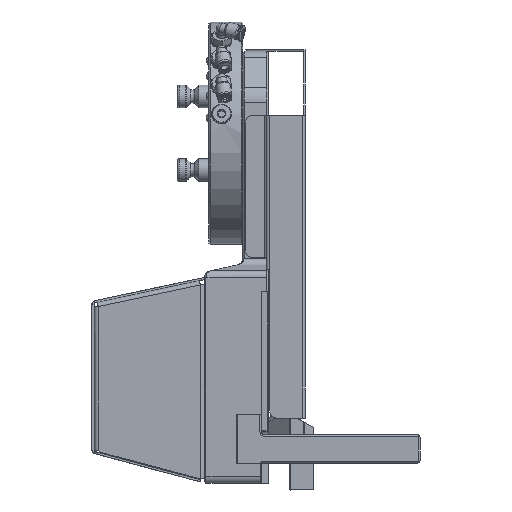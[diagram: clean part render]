
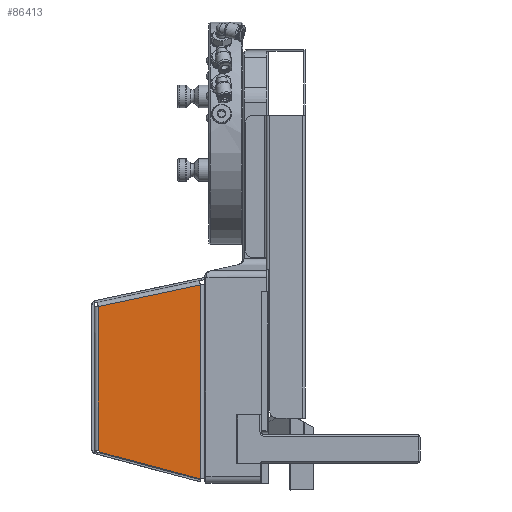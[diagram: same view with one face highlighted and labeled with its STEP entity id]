
A CAD part, left-side view. The second image highlights one B-rep face of the part: STEP entity #86413.
In plain terms, the highlighted planar face has unit normal (-1, 0, 0).
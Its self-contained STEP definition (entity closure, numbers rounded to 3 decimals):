
#46 = LINE ( 'NONE', #1480, #44835 ) ;
#1480 = CARTESIAN_POINT ( 'NONE',  ( -92., 30., -244. ) ) ;
#5670 = VERTEX_POINT ( 'NONE', #92268 ) ;
#6271 = VERTEX_POINT ( 'NONE', #73779 ) ;
#7976 = CARTESIAN_POINT ( 'NONE',  ( -92., 102., -122.138 ) ) ;
#8411 = DIRECTION ( 'NONE',  ( 0., 0., -1. ) ) ;
#9893 = EDGE_CURVE ( 'NONE', #43730, #30556, #15048, .T. ) ;
#12488 = DIRECTION ( 'NONE',  ( -1., 0., 0. ) ) ;
#15048 = LINE ( 'NONE', #31248, #96765 ) ;
#16925 = CARTESIAN_POINT ( 'NONE',  ( -92., 30., -107. ) ) ;
#20377 = CARTESIAN_POINT ( 'NONE',  ( -92., 98.103, -220.576 ) ) ;
#21940 = DIRECTION ( 'NONE',  ( 0., -1., 0. ) ) ;
#22797 = DIRECTION ( 'NONE',  ( 0., 0., -1. ) ) ;
#24076 = CIRCLE ( 'NONE', #80798, 5. ) ;
#30556 = VERTEX_POINT ( 'NONE', #97759 ) ;
#31200 = CARTESIAN_POINT ( 'NONE',  ( -92., 30., -244. ) ) ;
#31248 = CARTESIAN_POINT ( 'NONE',  ( -92., 30., -244. ) ) ;
#31663 = LINE ( 'NONE', #16925, #34655 ) ;
#34655 = VECTOR ( 'NONE', #83140, 1000. ) ;
#35457 = ORIENTED_EDGE ( 'NONE', *, *, #9893, .F. ) ;
#41684 = ORIENTED_EDGE ( 'NONE', *, *, #77461, .F. ) ;
#43730 = VERTEX_POINT ( 'NONE', #31200 ) ;
#44835 = VECTOR ( 'NONE', #8411, 1000. ) ;
#46099 = EDGE_CURVE ( 'NONE', #5670, #30556, #24076, .T. ) ;
#48143 = ORIENTED_EDGE ( 'NONE', *, *, #56020, .F. ) ;
#51029 = AXIS2_PLACEMENT_3D ( 'NONE', #63865, #89573, #21940 ) ;
#53123 = VECTOR ( 'NONE', #22797, 1000. ) ;
#55837 = EDGE_LOOP ( 'NONE', ( #71107, #75381, #35457, #48143, #41684 ) ) ;
#56020 = EDGE_CURVE ( 'NONE', #87757, #43730, #46, .T. ) ;
#56815 = DIRECTION ( 'NONE',  ( 0., -1., 0. ) ) ;
#63865 = CARTESIAN_POINT ( 'NONE',  ( -92., 30., -244. ) ) ;
#65832 = EDGE_CURVE ( 'NONE', #6271, #5670, #74639, .T. ) ;
#65834 = PLANE ( 'NONE',  #51029 ) ;
#71107 = ORIENTED_EDGE ( 'NONE', *, *, #65832, .T. ) ;
#73650 = CARTESIAN_POINT ( 'NONE',  ( -92., 30., -107. ) ) ;
#73779 = CARTESIAN_POINT ( 'NONE',  ( -92., 102., -122.304 ) ) ;
#74639 = LINE ( 'NONE', #7976, #53123 ) ;
#75381 = ORIENTED_EDGE ( 'NONE', *, *, #46099, .T. ) ;
#77461 = EDGE_CURVE ( 'NONE', #6271, #87757, #31663, .T. ) ;
#80798 = AXIS2_PLACEMENT_3D ( 'NONE', #20377, #12488, #56815 ) ;
#83140 = DIRECTION ( 'NONE',  ( 0., -0.978, 0.208 ) ) ;
#86413 = ADVANCED_FACE ( 'NONE', ( #95518 ), #65834, .T. ) ;
#87757 = VERTEX_POINT ( 'NONE', #73650 ) ;
#89573 = DIRECTION ( 'NONE',  ( -1., 0., 0. ) ) ;
#90577 = DIRECTION ( 'NONE',  ( 0., 0.966, 0.259 ) ) ;
#92268 = CARTESIAN_POINT ( 'NONE',  ( -92., 102., -223.708 ) ) ;
#95518 = FACE_OUTER_BOUND ( 'NONE', #55837, .T. ) ;
#96765 = VECTOR ( 'NONE', #90577, 1000. ) ;
#97759 = CARTESIAN_POINT ( 'NONE',  ( -92., 99.397, -225.405 ) ) ;
